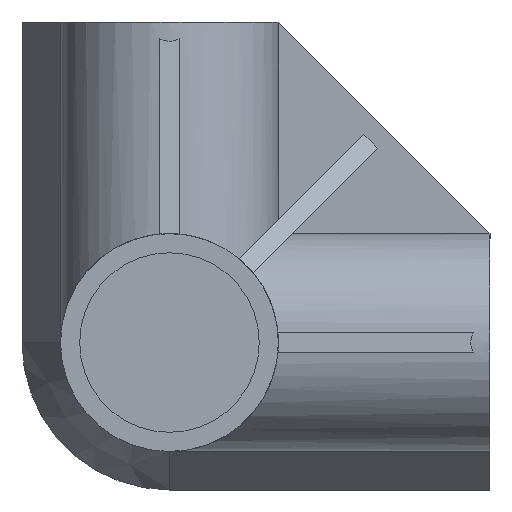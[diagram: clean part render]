
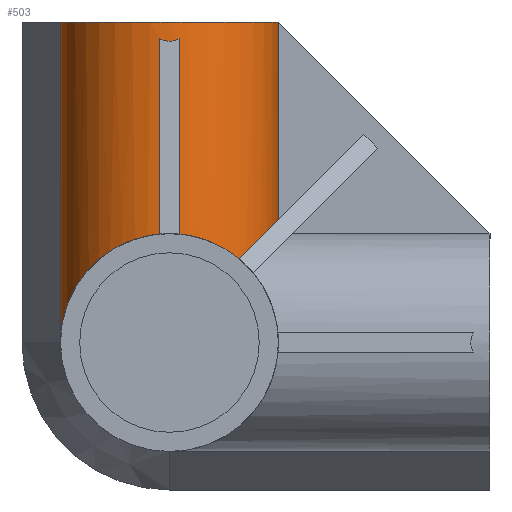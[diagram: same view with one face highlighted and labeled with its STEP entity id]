
A CAD part, front view. The second image highlights one B-rep face of the part: STEP entity #503.
In plain terms, the highlighted cylindrical face has radius 17 mm (diameter 34 mm), a partial arc.
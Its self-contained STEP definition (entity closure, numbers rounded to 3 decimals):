
#9 = CARTESIAN_POINT ( 'NONE',  ( -17., 0., 0. ) ) ;
#46 = LINE ( 'NONE', #965, #1426 ) ;
#54 = CARTESIAN_POINT ( 'NONE',  ( -1.5, -16.934, 16.934 ) ) ;
#97 = ORIENTED_EDGE ( 'NONE', *, *, #1002, .F. ) ;
#100 = CYLINDRICAL_SURFACE ( 'NONE', #501, 17. ) ;
#107 = CARTESIAN_POINT ( 'NONE',  ( -1.5, -16.934, 47.398 ) ) ;
#115 = CARTESIAN_POINT ( 'NONE',  ( 0., 0., 50. ) ) ;
#121 = DIRECTION ( 'NONE',  ( 1., 0., 0. ) ) ;
#126 = EDGE_CURVE ( 'NONE', #396, #1008, #946, .T. ) ;
#154 = CARTESIAN_POINT ( 'NONE',  ( -1.5, -16.934, 16.934 ) ) ;
#182 = DIRECTION ( 'NONE',  ( 0., 0., 1. ) ) ;
#225 = CARTESIAN_POINT ( 'NONE',  ( 17., 0., 50. ) ) ;
#231 = DIRECTION ( 'NONE',  ( 1., 0., 0. ) ) ;
#242 = CIRCLE ( 'NONE', #605, 17. ) ;
#257 = CARTESIAN_POINT ( 'NONE',  ( -1.5, -16.934, -17.001 ) ) ;
#271 = CARTESIAN_POINT ( 'NONE',  ( 1.5, -16.934, 16.934 ) ) ;
#297 = CARTESIAN_POINT ( 'NONE',  ( 1.5, -16.934, 16.934 ) ) ;
#315 = CARTESIAN_POINT ( 'NONE',  ( 1.5, -16.934, 47.398 ) ) ;
#346 = VERTEX_POINT ( 'NONE', #1462 ) ;
#359 = ORIENTED_EDGE ( 'NONE', *, *, #614, .F. ) ;
#360 = CARTESIAN_POINT ( 'NONE',  ( 10.913, -13.035, 13.035 ) ) ;
#396 = VERTEX_POINT ( 'NONE', #54 ) ;
#405 = LINE ( 'NONE', #764, #514 ) ;
#425 = ORIENTED_EDGE ( 'NONE', *, *, #126, .T. ) ;
#457 =( BOUNDED_CURVE ( )  B_SPLINE_CURVE ( 3, ( #154, #725, #494, #9 ),
 .UNSPECIFIED., .F., .T. ) 
 B_SPLINE_CURVE_WITH_KNOTS ( ( 4, 4 ),
 ( 0.088, 1.571 ),
 .UNSPECIFIED. ) 
 CURVE ( )  GEOMETRIC_REPRESENTATION_ITEM ( )  RATIONAL_B_SPLINE_CURVE ( ( 1., 0.825, 0.825, 1. ) ) 
 REPRESENTATION_ITEM ( '' )  );
#474 = VERTEX_POINT ( 'NONE', #998 ) ;
#482 = ORIENTED_EDGE ( 'NONE', *, *, #1093, .F. ) ;
#494 = CARTESIAN_POINT ( 'NONE',  ( -17., -9.274, 9.274 ) ) ;
#501 = AXIS2_PLACEMENT_3D ( 'NONE', #559, #1493, #121 ) ;
#503 = ADVANCED_FACE ( 'NONE', ( #1141 ), #100, .T. ) ;
#510 = ORIENTED_EDGE ( 'NONE', *, *, #1110, .F. ) ;
#514 = VECTOR ( 'NONE', #182, 1000. ) ;
#559 = CARTESIAN_POINT ( 'NONE',  ( 0., 0., -17.001 ) ) ;
#569 = VERTEX_POINT ( 'NONE', #297 ) ;
#572 = CARTESIAN_POINT ( 'NONE',  ( 17., 0., 19.121 ) ) ;
#605 = AXIS2_PLACEMENT_3D ( 'NONE', #115, #703, #231 ) ;
#614 = EDGE_CURVE ( 'NONE', #1476, #928, #1101, .T. ) ;
#622 = DIRECTION ( 'NONE',  ( 0., 0., 1. ) ) ;
#623 = DIRECTION ( 'NONE',  ( 0., 0., -1. ) ) ;
#640 = CARTESIAN_POINT ( 'NONE',  ( -17., 0., 0. ) ) ;
#653 = VECTOR ( 'NONE', #622, 1000. ) ;
#669 = CARTESIAN_POINT ( 'NONE',  ( 17., -5.116, 19.121 ) ) ;
#686 = CARTESIAN_POINT ( 'NONE',  ( 10.913, -13.035, 13.035 ) ) ;
#690 = VERTEX_POINT ( 'NONE', #640 ) ;
#703 = DIRECTION ( 'NONE',  ( 0., 0., 1. ) ) ;
#716 = CARTESIAN_POINT ( 'NONE',  ( 8.227, -15.284, 15.284 ) ) ;
#725 = CARTESIAN_POINT ( 'NONE',  ( -10.738, -16.115, 16.115 ) ) ;
#764 = CARTESIAN_POINT ( 'NONE',  ( -17., 0., -17.001 ) ) ;
#767 =( BOUNDED_CURVE ( )  B_SPLINE_CURVE ( 3, ( #572, #669, #1253, #686 ),
 .UNSPECIFIED., .F., .T. ) 
 B_SPLINE_CURVE_WITH_KNOTS ( ( 4, 4 ),
 ( 0., 0.874 ),
 .UNSPECIFIED. ) 
 CURVE ( )  GEOMETRIC_REPRESENTATION_ITEM ( )  RATIONAL_B_SPLINE_CURVE ( ( 1., 0.937, 0.937, 1. ) ) 
 REPRESENTATION_ITEM ( '' )  );
#806 = ORIENTED_EDGE ( 'NONE', *, *, #982, .F. ) ;
#845 = VECTOR ( 'NONE', #623, 1000. ) ;
#873 =( BOUNDED_CURVE ( )  B_SPLINE_CURVE ( 3, ( #360, #716, #957, #271 ),
 .UNSPECIFIED., .F., .T. ) 
 B_SPLINE_CURVE_WITH_KNOTS ( ( 4, 4 ),
 ( 5.586, 6.195 ),
 .UNSPECIFIED. ) 
 CURVE ( )  GEOMETRIC_REPRESENTATION_ITEM ( )  RATIONAL_B_SPLINE_CURVE ( ( 1., 0.969, 0.969, 1. ) ) 
 REPRESENTATION_ITEM ( '' )  );
#906 = CARTESIAN_POINT ( 'NONE',  ( 17., 0., 19.121 ) ) ;
#928 = VERTEX_POINT ( 'NONE', #906 ) ;
#946 = LINE ( 'NONE', #257, #653 ) ;
#957 = CARTESIAN_POINT ( 'NONE',  ( 4.99, -16.625, 16.625 ) ) ;
#965 = CARTESIAN_POINT ( 'NONE',  ( 1.5, -16.934, -17.001 ) ) ;
#982 = EDGE_CURVE ( 'NONE', #346, #569, #873, .T. ) ;
#984 = CARTESIAN_POINT ( 'NONE',  ( 17., 0., -17.001 ) ) ;
#998 = CARTESIAN_POINT ( 'NONE',  ( 1.5, -16.934, 47.398 ) ) ;
#999 = ORIENTED_EDGE ( 'NONE', *, *, #1313, .T. ) ;
#1002 = EDGE_CURVE ( 'NONE', #396, #690, #457, .T. ) ;
#1008 = VERTEX_POINT ( 'NONE', #1075 ) ;
#1025 = CARTESIAN_POINT ( 'NONE',  ( 0.501, -17.022, 46.867 ) ) ;
#1075 = CARTESIAN_POINT ( 'NONE',  ( -1.5, -16.934, 47.398 ) ) ;
#1093 = EDGE_CURVE ( 'NONE', #569, #474, #46, .T. ) ;
#1101 = LINE ( 'NONE', #984, #845 ) ;
#1110 = EDGE_CURVE ( 'NONE', #928, #346, #767, .T. ) ;
#1111 = ORIENTED_EDGE ( 'NONE', *, *, #1434, .F. ) ;
#1116 = ORIENTED_EDGE ( 'NONE', *, *, #1204, .F. ) ;
#1133 = EDGE_LOOP ( 'NONE', ( #510, #359, #1116, #1111, #97, #425, #999, #482, #806 ) ) ;
#1141 = FACE_OUTER_BOUND ( 'NONE', #1133, .T. ) ;
#1204 = EDGE_CURVE ( 'NONE', #1240, #1476, #242, .T. ) ;
#1230 =( BOUNDED_CURVE ( )  B_SPLINE_CURVE ( 3, ( #107, #1494, #1025, #315 ),
 .UNSPECIFIED., .F., .T. ) 
 B_SPLINE_CURVE_WITH_KNOTS ( ( 4, 4 ),
 ( 3.053, 3.23 ),
 .UNSPECIFIED. ) 
 CURVE ( )  GEOMETRIC_REPRESENTATION_ITEM ( )  RATIONAL_B_SPLINE_CURVE ( ( 1., 0.997, 0.997, 1. ) ) 
 REPRESENTATION_ITEM ( '' )  );
#1240 = VERTEX_POINT ( 'NONE', #1397 ) ;
#1253 = CARTESIAN_POINT ( 'NONE',  ( 14.836, -9.751, 16.957 ) ) ;
#1313 = EDGE_CURVE ( 'NONE', #1008, #474, #1230, .T. ) ;
#1397 = CARTESIAN_POINT ( 'NONE',  ( -17., 0., 50. ) ) ;
#1426 = VECTOR ( 'NONE', #1431, 1000. ) ;
#1431 = DIRECTION ( 'NONE',  ( 0., 0., 1. ) ) ;
#1434 = EDGE_CURVE ( 'NONE', #690, #1240, #405, .T. ) ;
#1462 = CARTESIAN_POINT ( 'NONE',  ( 10.913, -13.035, 13.035 ) ) ;
#1476 = VERTEX_POINT ( 'NONE', #225 ) ;
#1493 = DIRECTION ( 'NONE',  ( 0., 0., 1. ) ) ;
#1494 = CARTESIAN_POINT ( 'NONE',  ( -0.501, -17.022, 46.867 ) ) ;
